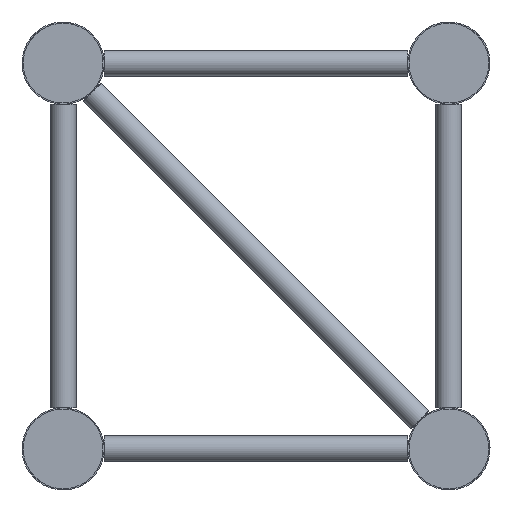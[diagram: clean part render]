
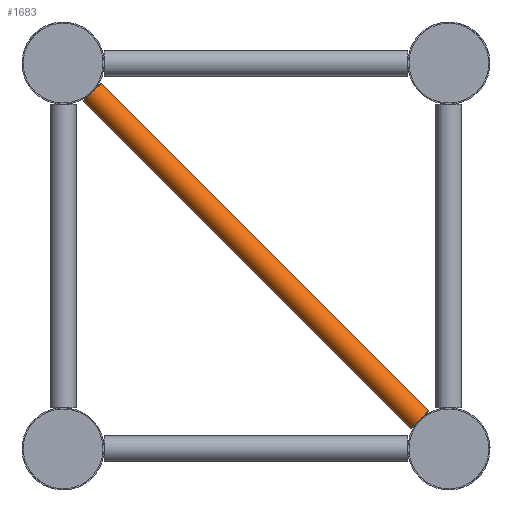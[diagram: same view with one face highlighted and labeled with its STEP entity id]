
A CAD part, left-side view. The second image highlights one B-rep face of the part: STEP entity #1683.
In plain terms, the highlighted cylindrical face has radius 8 mm (diameter 16 mm), a full revolution.
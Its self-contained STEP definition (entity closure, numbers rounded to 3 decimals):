
#30=B_SPLINE_CURVE_WITH_KNOTS('',3,(#2687,#2688,#2689,#2690,#2691,#2692),
 .UNSPECIFIED.,.F.,.F.,(4,2,4),(1.187,1.214,1.242),
 .UNSPECIFIED.);
#32=B_SPLINE_CURVE_WITH_KNOTS('',3,(#2705,#2706,#2707,#2708,#2709,#2710),
 .UNSPECIFIED.,.F.,.F.,(4,2,4),(3.616,3.643,3.67),
 .UNSPECIFIED.);
#39=B_SPLINE_CURVE_WITH_KNOTS('',3,(#2870,#2871,#2872,#2873,#2874,#2875),
 .UNSPECIFIED.,.F.,.F.,(4,2,4),(1.187,1.214,1.242),
 .UNSPECIFIED.);
#40=B_SPLINE_CURVE_WITH_KNOTS('',3,(#2879,#2880,#2881,#2882,#2883,#2884),
 .UNSPECIFIED.,.F.,.F.,(4,2,4),(3.616,3.643,3.67),
 .UNSPECIFIED.);
#175=CIRCLE('',#1871,8.);
#176=CIRCLE('',#1873,8.);
#177=CIRCLE('',#1874,8.);
#178=CIRCLE('',#1875,8.);
#270=FACE_BOUND('',#595,.T.);
#338=CYLINDRICAL_SURFACE('',#1872,8.);
#426=FACE_OUTER_BOUND('',#594,.T.);
#594=EDGE_LOOP('',(#1218,#1219,#1220,#1221));
#595=EDGE_LOOP('',(#1222,#1223,#1224,#1225));
#769=VERTEX_POINT('',#2684);
#770=VERTEX_POINT('',#2686);
#773=VERTEX_POINT('',#2702);
#774=VERTEX_POINT('',#2704);
#794=VERTEX_POINT('',#2868);
#795=VERTEX_POINT('',#2869);
#796=VERTEX_POINT('',#2876);
#797=VERTEX_POINT('',#2878);
#913=EDGE_CURVE('',#770,#769,#30,.T.);
#917=EDGE_CURVE('',#774,#773,#32,.T.);
#950=EDGE_CURVE('',#769,#774,#175,.T.);
#951=EDGE_CURVE('',#794,#795,#39,.T.);
#952=EDGE_CURVE('',#795,#796,#176,.T.);
#953=EDGE_CURVE('',#796,#797,#40,.T.);
#954=EDGE_CURVE('',#797,#794,#177,.T.);
#955=EDGE_CURVE('',#773,#770,#178,.T.);
#1218=ORIENTED_EDGE('',*,*,#951,.T.);
#1219=ORIENTED_EDGE('',*,*,#952,.T.);
#1220=ORIENTED_EDGE('',*,*,#953,.T.);
#1221=ORIENTED_EDGE('',*,*,#954,.T.);
#1222=ORIENTED_EDGE('',*,*,#913,.T.);
#1223=ORIENTED_EDGE('',*,*,#950,.T.);
#1224=ORIENTED_EDGE('',*,*,#917,.T.);
#1225=ORIENTED_EDGE('',*,*,#955,.T.);
#1683=ADVANCED_FACE('',(#426,#270),#338,.T.);
#1871=AXIS2_PLACEMENT_3D('',#2866,#2235,#2236);
#1872=AXIS2_PLACEMENT_3D('',#2867,#2237,#2238);
#1873=AXIS2_PLACEMENT_3D('',#2877,#2239,#2240);
#1874=AXIS2_PLACEMENT_3D('',#2885,#2241,#2242);
#1875=AXIS2_PLACEMENT_3D('',#2886,#2243,#2244);
#2235=DIRECTION('center_axis',(0.,-0.707,
-0.707));
#2236=DIRECTION('ref_axis',(0.,0.707,-0.707));
#2237=DIRECTION('center_axis',(0.,0.707,
0.707));
#2238=DIRECTION('ref_axis',(0.,0.707,-0.707));
#2239=DIRECTION('center_axis',(0.,0.707,
0.707));
#2240=DIRECTION('ref_axis',(0.,0.707,-0.707));
#2241=DIRECTION('center_axis',(0.,0.707,
0.707));
#2242=DIRECTION('ref_axis',(0.,0.707,-0.707));
#2243=DIRECTION('center_axis',(0.,-0.707,
-0.707));
#2244=DIRECTION('ref_axis',(0.,0.707,-0.707));
#2684=CARTESIAN_POINT('',(52.005,221.164,-18.224));
#2686=CARTESIAN_POINT('',(52.005,220.776,-17.836));
#2687=CARTESIAN_POINT('Ctrl Pts',(52.005,220.776,-17.836));
#2688=CARTESIAN_POINT('Ctrl Pts',(52.002,220.84,-17.902));
#2689=CARTESIAN_POINT('Ctrl Pts',(52.,220.904,-17.967));
#2690=CARTESIAN_POINT('Ctrl Pts',(52.,221.033,-18.096));
#2691=CARTESIAN_POINT('Ctrl Pts',(52.002,221.098,-18.16));
#2692=CARTESIAN_POINT('Ctrl Pts',(52.005,221.164,-18.224));
#2702=CARTESIAN_POINT('',(67.995,220.776,-17.836));
#2704=CARTESIAN_POINT('',(67.995,221.164,-18.224));
#2705=CARTESIAN_POINT('Ctrl Pts',(67.995,221.164,-18.224));
#2706=CARTESIAN_POINT('Ctrl Pts',(67.998,221.098,-18.16));
#2707=CARTESIAN_POINT('Ctrl Pts',(68.,221.033,-18.096));
#2708=CARTESIAN_POINT('Ctrl Pts',(68.,220.904,-17.967));
#2709=CARTESIAN_POINT('Ctrl Pts',(67.998,220.84,-17.902));
#2710=CARTESIAN_POINT('Ctrl Pts',(67.995,220.776,-17.836));
#2866=CARTESIAN_POINT('Origin',(60.,220.97,-18.03));
#2867=CARTESIAN_POINT('Origin',(60.,119.5,-119.5));
#2868=CARTESIAN_POINT('',(67.995,17.836,-220.776));
#2869=CARTESIAN_POINT('',(67.995,18.224,-221.164));
#2870=CARTESIAN_POINT('Ctrl Pts',(67.995,17.836,-220.776));
#2871=CARTESIAN_POINT('Ctrl Pts',(67.998,17.902,-220.84));
#2872=CARTESIAN_POINT('Ctrl Pts',(68.,17.967,-220.904));
#2873=CARTESIAN_POINT('Ctrl Pts',(68.,18.096,-221.033));
#2874=CARTESIAN_POINT('Ctrl Pts',(67.998,18.16,-221.098));
#2875=CARTESIAN_POINT('Ctrl Pts',(67.995,18.224,-221.164));
#2876=CARTESIAN_POINT('',(52.005,18.224,-221.164));
#2877=CARTESIAN_POINT('Origin',(60.,18.03,-220.97));
#2878=CARTESIAN_POINT('',(52.005,17.836,-220.776));
#2879=CARTESIAN_POINT('Ctrl Pts',(52.005,18.224,-221.164));
#2880=CARTESIAN_POINT('Ctrl Pts',(52.002,18.16,-221.098));
#2881=CARTESIAN_POINT('Ctrl Pts',(52.,18.096,-221.033));
#2882=CARTESIAN_POINT('Ctrl Pts',(52.,17.967,-220.904));
#2883=CARTESIAN_POINT('Ctrl Pts',(52.002,17.902,-220.84));
#2884=CARTESIAN_POINT('Ctrl Pts',(52.005,17.836,-220.776));
#2885=CARTESIAN_POINT('Origin',(60.,18.03,-220.97));
#2886=CARTESIAN_POINT('Origin',(60.,220.97,-18.03));
